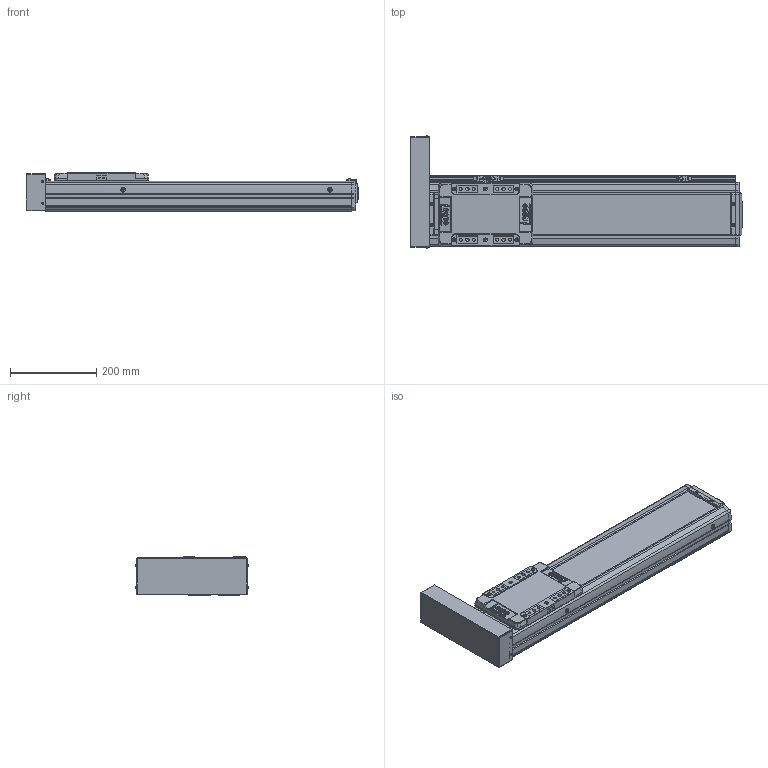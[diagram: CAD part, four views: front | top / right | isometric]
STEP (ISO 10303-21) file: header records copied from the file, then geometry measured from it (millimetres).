
FILE_DESCRIPTION(('STEP AP214'),'1');
FILE_NAME('Z:/Web/3D/SAN150/2013.04 (STP.)/SAN150ㅁㅁ-450PL+3SL.stp','2013-05-07T23:40:19',(' '),(' '),'Spatial InterOp 3D',' ',' ');
FILE_SCHEMA(('automotive_design'));
Length unit declared in the file: millimetre
Products named in the file (58): SLBL-SAN150; SLCV-SAN150; FHCS M4.0 x 8.0; BHCS M4.0 x 10.0; SFX-SAN150; RRCV-SAN150; FRBL-SAN150; Spacer; RN15; FRCV-SAN150; Screw 20; BASE-SAN150-000L ; SUS COVER; 스크루 : Round - M5.0 x 6.0; BHCS M3.0 x 6.0; P; M3.0 x 6.0; SRL-16x17-360L; SGD-SAN150; EE-SX674; SBK-SX674-352; 스크루 : Round - M3.0 x 6.0
Bounding box: 770 x 260.73 x 90 mm (x, y, z)
Volume: 5368008.9 mm3; surface area: 980272.6 mm2
Topology: 58 solids, 58 shells, 2598 faces, 6675 edges, 4288 vertices
Faces by surface type: plane 1386, cylinder 833, cone 266, sphere 80, bspline 21, torus 12
Entity records: 102566 total; most frequent: CARTESIAN_POINT 16097, DIRECTION 14112, ORIENTED_EDGE 13126, EDGE_CURVE 6563, AXIS2_PLACEMENT_3D 4998, VERTEX_POINT 4288, LINE 4116, VECTOR 4116
